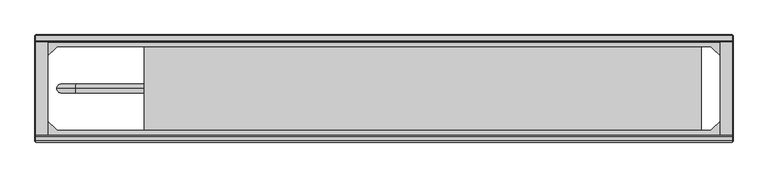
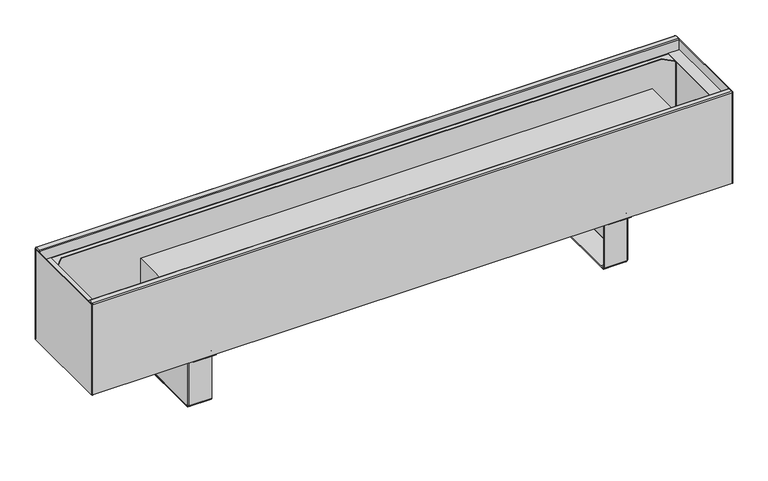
"""IFC4 building model written with IfcOpenShell, lengths in millimetres: proxy geometry, TECHNO_Конвектор напольный_Vita KPZ 185 : KPZ 185-180."""

from ifc_helpers import new_model, si_unit, point, frame, origin, place, context, project, spatial, polyline, circle_curve, ellipse_curve, trimmed, outline, extrude, source, transform, mapped, element, save
from ifc_brep_helpers import plane_surface, cylinder_surface, revolved_surface, advanced_brep


def mechanical_equipment_a01b45b6(model_context):
    return source(origin(), model_context, "Body", "SolidModel", [
        advanced_brep(
        [(409.7, -116.8, 1.5), (409.7, -114.5, 3.8), (409.7, -114.5, 4.9), (409.7, -116.0, 4.9), (409.7, -116.0, 3.8), (409.7, -116.8, 3.0), (409.7, -124.5, 3.0), (409.7, -124.5, 1.5), (409.7, -117.6, 1.5), (409.7, -114.5, 97.7), (409.7, -113.7, 98.5), (409.7, -101.0, 98.5), (409.7, -101.0, 100.0), (409.7, -113.7, 100.0), (409.7, -116.0, 97.7), (409.7, -116.0, 95.5), (409.7, -114.5, 95.5), (409.7, -270.5, 3.8), (409.7, -268.2, 1.5), (409.7, -267.4, 1.5), (409.7, -260.5, 1.5), (409.7, -260.5, 3.0), (409.7, -268.2, 3.0), (409.7, -269.0, 3.8), (409.7, -269.0, 4.9), (409.7, -270.5, 4.9), (409.7, -269.0, 97.7), (409.7, -271.3, 100.0), (409.7, -284.0, 100.0), (409.7, -284.0, 98.5), (409.7, -271.3, 98.5), (409.7, -270.5, 97.7), (409.7, -270.5, 95.5), (409.7, -269.0, 95.5), (367.0, -270.5, 97.7), (367.0, -271.3, 98.5), (367.0, -284.0, 98.5), (367.0, -284.0, 100.0), (367.0, -271.3, 100.0), (367.0, -269.0, 97.7), (367.0, -269.0, 3.8), (367.0, -268.2, 3.0), (367.0, -260.5, 3.0), (367.0, -260.5, 1.5), (367.0, -124.5, 1.5), (367.0, -124.5, 3.0), (367.0, -116.8, 3.0), (367.0, -116.0, 3.8), (367.0, -116.0, 97.7), (367.0, -113.7, 100.0), (367.0, -101.0, 100.0), (367.0, -101.0, 98.5), (367.0, -113.7, 98.5), (367.0, -114.5, 97.7), (367.0, -114.5, 3.8), (367.0, -116.8, 1.5), (367.0, -117.6, 1.5), (367.0, -117.6, 0.0), (367.0, -267.4, 0.0), (367.0, -267.4, 1.5), (367.0, -268.2, 1.5), (367.0, -270.5, 3.8), (410.5, -116.8, 95.5), (410.5, -268.2, 95.5), (412.0, -268.2, 95.5), (412.0, -116.8, 95.5), (412.0, -116.8, 4.9), (412.0, -117.6, 4.9), (410.5, -117.6, 4.9), (410.5, -116.8, 4.9), (410.5, -268.2, 4.9), (410.5, -267.4, 4.9), (412.0, -267.4, 4.9), (412.0, -268.2, 4.9), (410.5, -117.6, 2.3), (410.5, -267.4, 2.3), (411.9999999, -267.4, 2.3), (412.0, -117.6, 2.3), (409.7, -117.6, 0.0), (409.7, -267.4, 0.0)],
        [
            (0, 1, circle_curve(frame((409.7, -116.8, 3.8), z_axis=(1.0, 0.0, 0.0), x_axis=(0.0, -1.0, 0.0)), 2.3)),
            (1, 2),
            (2, 3),
            (3, 4),
            (4, 5, circle_curve(frame((409.7, -116.8, 3.8), z_axis=(-1.0, 0.0, 0.0), x_axis=(0.0, -1.0, 0.0)), 0.8)),
            (5, 6),
            (6, 7),
            (7, 8),
            (8, 0),
            (9, 10, circle_curve(frame((409.7, -113.7, 97.7), z_axis=(-1.0, 0.0, 0.0), x_axis=(0.0, -1.0, 0.0)), 0.8)),
            (10, 11),
            (11, 12),
            (12, 13),
            (13, 14, circle_curve(frame((409.7, -113.7, 97.7), z_axis=(1.0, 0.0, 0.0), x_axis=(0.0, -1.0, 0.0)), 2.3)),
            (14, 15),
            (15, 16),
            (16, 9),
            (17, 18, circle_curve(frame((409.7, -268.2, 3.8), z_axis=(1.0, 0.0, 0.0), x_axis=(0.0, -1.0, 0.0)), 2.3)),
            (18, 19),
            (19, 20),
            (20, 21),
            (21, 22),
            (22, 23, circle_curve(frame((409.7, -268.2, 3.8), z_axis=(-1.0, 0.0, 0.0), x_axis=(0.0, -1.0, 0.0)), 0.8)),
            (23, 24),
            (24, 25),
            (25, 17),
            (26, 27, circle_curve(frame((409.7, -271.3, 97.7), z_axis=(1.0, 0.0, 0.0), x_axis=(0.0, -1.0, 0.0)), 2.3)),
            (27, 28),
            (28, 29),
            (29, 30),
            (30, 31, circle_curve(frame((409.7, -271.3, 97.7), z_axis=(-1.0, 0.0, 0.0), x_axis=(0.0, -1.0, 0.0)), 0.8)),
            (31, 32),
            (32, 33),
            (33, 26),
            (34, 35, circle_curve(frame((367.0, -271.3, 97.7), z_axis=(1.0, 0.0, 0.0), x_axis=(0.0, -1.0, 0.0)), 0.8)),
            (35, 36),
            (36, 37),
            (37, 38),
            (38, 39, circle_curve(frame((367.0, -271.3, 97.7), z_axis=(-1.0, 0.0, 0.0), x_axis=(0.0, -1.0, 0.0)), 2.3)),
            (39, 40),
            (40, 41, circle_curve(frame((367.0, -268.2, 3.8), z_axis=(1.0, 0.0, 0.0), x_axis=(0.0, -1.0, 0.0)), 0.8)),
            (41, 42),
            (42, 43),
            (43, 44),
            (44, 45),
            (45, 46),
            (46, 47, circle_curve(frame((367.0, -116.8, 3.8), z_axis=(1.0, 0.0, 0.0), x_axis=(0.0, -1.0, 0.0)), 0.8)),
            (47, 48),
            (48, 49, circle_curve(frame((367.0, -113.7, 97.7), z_axis=(-1.0, 0.0, 0.0), x_axis=(0.0, -1.0, 0.0)), 2.3)),
            (49, 50),
            (50, 51),
            (51, 52),
            (52, 53, circle_curve(frame((367.0, -113.7, 97.7), z_axis=(1.0, 0.0, 0.0), x_axis=(0.0, -1.0, 0.0)), 0.8)),
            (53, 54),
            (54, 55, circle_curve(frame((367.0, -116.8, 3.8), z_axis=(-1.0, 0.0, 0.0), x_axis=(0.0, -1.0, 0.0)), 2.3)),
            (55, 56),
            (56, 57),
            (57, 58),
            (58, 59),
            (59, 60),
            (60, 61, circle_curve(frame((367.0, -268.2, 3.8), z_axis=(-1.0, 0.0, 0.0), x_axis=(0.0, -1.0, 0.0)), 2.3)),
            (61, 34),
            (30, 35),
            (34, 31),
            (29, 36),
            (28, 37),
            (27, 38),
            (26, 39),
            (33, 24),
            (23, 40),
            (22, 41),
            (5, 46),
            (45, 6),
            (4, 47),
            (3, 15),
            (14, 48),
            (13, 49),
            (12, 50),
            (11, 51),
            (10, 52),
            (9, 53),
            (16, 2),
            (1, 54),
            (0, 55),
            (8, 56),
            (17, 61),
            (60, 18),
            (25, 32),
            (21, 42),
            (20, 43),
            (59, 19),
            (44, 7),
            (15, 62, circle_curve(frame((409.7, -116.8, 95.5), z_axis=(0.0, 0.0, -1.0), x_axis=(-1.0, 0.0, 0.0)), 0.8)),
            (62, 63),
            (63, 33, circle_curve(frame((409.7, -268.2, 95.5), z_axis=(0.0, 0.0, -1.0), x_axis=(-1.0, 0.0, 0.0)), 0.8)),
            (32, 64, circle_curve(frame((409.7, -268.2, 95.5), z_axis=(0.0, 0.0, 1.0), x_axis=(-1.0, 0.0, 0.0)), 2.3)),
            (64, 65),
            (65, 16, circle_curve(frame((409.7, -116.8, 95.5), z_axis=(0.0, 0.0, 1.0), x_axis=(-1.0, 0.0, 0.0)), 2.3)),
            (2, 66, circle_curve(frame((409.7, -116.8, 4.9), z_axis=(0.0, 0.0, -1.0), x_axis=(-1.0, 0.0, 0.0)), 2.3)),
            (66, 67),
            (67, 68),
            (68, 69),
            (69, 3, circle_curve(frame((409.7, -116.8, 4.9), z_axis=(0.0, 0.0, 1.0), x_axis=(-1.0, 0.0, 0.0)), 0.8)),
            (24, 70, circle_curve(frame((409.7, -268.2, 4.9), z_axis=(0.0, 0.0, 1.0), x_axis=(-1.0, 0.0, 0.0)), 0.8)),
            (70, 71),
            (71, 72),
            (72, 73),
            (73, 25, circle_curve(frame((409.7, -268.2, 4.9), z_axis=(0.0, 0.0, -1.0), x_axis=(-1.0, 0.0, 0.0)), 2.3)),
            (69, 62),
            (68, 74),
            (74, 75),
            (75, 71),
            (70, 63),
            (64, 73),
            (72, 76),
            (76, 77),
            (77, 67),
            (66, 65),
            (8, 74, circle_curve(frame((409.7, -117.6, 2.3), z_axis=(0.0, -1.0, 0.0), x_axis=(-1.0, 0.0, 0.0)), 0.8)),
            (77, 78, circle_curve(frame((409.7, -117.6, 2.3), z_axis=(0.0, 1.0, 0.0), x_axis=(-1.0, 0.0, 0.0)), 2.3)),
            (78, 57),
            (58, 79),
            (79, 76, circle_curve(frame((409.7, -267.4, 2.3), z_axis=(0.0, -1.0, 0.0), x_axis=(-1.0, 0.0, 0.0)), 2.3)),
            (75, 19, circle_curve(frame((409.7, -267.4, 2.3), z_axis=(0.0, 1.0, 0.0), x_axis=(-1.0, 0.0, 0.0)), 0.8)),
            (20, 7),
            (79, 78),
        ],
        [
            plane_surface(frame((409.7, -272.1, 97.7), z_axis=(1.0, 0.0, 0.0), x_axis=(0.0, 0.0, 1.0))),
            plane_surface(frame((367.0, -272.1, 97.7), z_axis=(-1.0, 0.0, 0.0), x_axis=(0.0, 0.0, -1.0))),
            revolved_surface(polyline([(409.7, -272.1, 97.7), (367.0, -272.1, 97.7)]), (409.7, -271.3, 97.7), (1.0, 0.0, 0.0)),
            plane_surface(frame((367.0, -271.3, 98.5), z_axis=(0.0, 0.0, -1.0), x_axis=(1.0, 0.0, 0.0))),
            plane_surface(frame((367.0, -284.0, 98.5), z_axis=(0.0, -1.0, 0.0), x_axis=(1.0, 0.0, 0.0))),
            plane_surface(frame((367.0, -284.0, 100.0), z_axis=(0.0, 0.0, 1.0), x_axis=(1.0, 0.0, 0.0))),
            cylinder_surface(frame((409.7, -271.3, 97.7), z_axis=(-1.0, 0.0, 0.0), x_axis=(0.0, -1.0, 0.0)), 2.3),
            plane_surface(frame((367.0, -269.0, 97.7), z_axis=(0.0, 1.0, 3.692083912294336e-12), x_axis=(1.0, 0.0, 0.0))),
            revolved_surface(polyline([(409.7, -269.0, 3.8), (367.0, -269.0, 3.8)]), (409.7, -268.2, 3.8), (1.0, 0.0, 0.0)),
            plane_surface(frame((367.0, -124.5, 3.0), z_axis=(0.0, 0.0, 1.0), x_axis=(1.0, 0.0, 0.0))),
            revolved_surface(polyline([(409.7, -117.6, 3.8), (367.0, -117.6, 3.8)]), (412.0, -116.8, 3.8), (1.0, 0.0, 0.0)),
            plane_surface(frame((367.0, -116.0, 3.8), z_axis=(0.0, -1.0, 0.0), x_axis=(1.0, 0.0, 0.0))),
            cylinder_surface(frame((412.0, -113.7, 97.7), z_axis=(-1.0, 0.0, 0.0), x_axis=(0.0, -1.0, 0.0)), 2.3),
            plane_surface(frame((367.0, -113.7, 100.0), z_axis=(0.0, 0.0, 1.0), x_axis=(1.0, 0.0, 0.0))),
            plane_surface(frame((367.0, -101.0, 100.0), z_axis=(0.0, 1.0, 0.0), x_axis=(1.0, 0.0, 0.0))),
            plane_surface(frame((367.0, -101.0, 98.5), z_axis=(0.0, 0.0, -1.0), x_axis=(1.0, 0.0, 0.0))),
            revolved_surface(polyline([(409.7, -114.5, 97.7), (367.0, -114.5, 97.7)]), (412.0, -113.7, 97.7), (1.0, 0.0, 0.0)),
            plane_surface(frame((367.0, -114.5, 97.7), z_axis=(0.0, 1.0, 0.0), x_axis=(1.0, 0.0, 0.0))),
            cylinder_surface(frame((412.0, -116.8, 3.8), z_axis=(-1.0, 0.0, 0.0), x_axis=(0.0, -1.0, 0.0)), 2.3),
            plane_surface(frame((367.0, -116.8, 1.5), z_axis=(0.0, 0.0, -1.0), x_axis=(1.0, 0.0, 0.0))),
            cylinder_surface(frame((409.7, -268.2, 3.8), z_axis=(-1.0, 0.0, 0.0), x_axis=(0.0, -1.0, 0.0)), 2.3),
            plane_surface(frame((367.0, -270.5, 3.8), z_axis=(0.0, -1.0, 0.0), x_axis=(1.0, 0.0, 0.0))),
            plane_surface(frame((367.0, -268.2, 3.0), z_axis=(0.0, 0.0, 1.0), x_axis=(1.0, 0.0, 0.0))),
            plane_surface(frame((367.0, -260.5, 3.0), z_axis=(0.0, 1.0, 0.0), x_axis=(1.0, 0.0, 0.0))),
            plane_surface(frame((367.0, -260.5, 1.5), z_axis=(0.0, 0.0, -1.0), x_axis=(1.0, 0.0, 0.0))),
            plane_surface(frame((367.0, -124.5, 1.5), z_axis=(0.0, -1.0, 0.0), x_axis=(1.0, 0.0, 0.0))),
            plane_surface(frame((409.7, -116.0, 95.5), z_axis=(0.0, 0.0, 1.0), x_axis=(0.0, -1.0, 0.0))),
            plane_surface(frame((409.7, -116.0, 4.9), z_axis=(0.0, 0.0, -1.0), x_axis=(0.0, 1.0, 0.0))),
            revolved_surface(polyline([(408.9, -116.8, 4.9), (408.9, -116.8, 95.5)]), (409.7, -116.8, 4.9), (0.0, 0.0, -1.0)),
            plane_surface(frame((410.5, -116.8, 95.5), z_axis=(-1.0, 0.0, 0.0), x_axis=(0.0, 0.0, -1.0))),
            plane_surface(frame((412.0, -117.6, 95.5), z_axis=(1.0, -4.322665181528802e-10, 0.0), x_axis=(0.0, 0.0, -1.0))),
            cylinder_surface(frame((409.7, -116.8, 4.9), z_axis=(0.0, 0.0, 1.0), x_axis=(-1.0, 0.0, 0.0)), 2.3),
            cylinder_surface(frame((409.7, -268.2, 0.0), z_axis=(0.0, 0.0, 1.0), x_axis=(-1.0, 0.0, 0.0)), 2.3),
            revolved_surface(polyline([(408.9, -268.2, 4.9), (408.9, -268.2, 95.5)]), (409.7, -268.2, 0.0), (0.0, 0.0, -1.0)),
            plane_surface(frame((367.0, -117.6, 1.5), z_axis=(0.0, 1.0, 0.0), x_axis=(0.0, 0.0, 1.0))),
            plane_surface(frame((367.0, -267.4, 1.5), z_axis=(0.0, -1.0, 0.0), x_axis=(0.0, 0.0, -1.0))),
            plane_surface(frame((367.0, -117.6, 1.5), z_axis=(0.0, 0.0, 1.0), x_axis=(0.0, -1.0, 0.0))),
            revolved_surface(polyline([(408.9, -267.4, 2.3), (408.9, -117.6, 2.3)]), (409.7, -267.4, 2.3), (0.0, -1.0, 0.0)),
            cylinder_surface(frame((409.7, -267.4, 2.3), z_axis=(0.0, 1.0, 0.0), x_axis=(-1.0, 0.0, 0.0)), 2.3),
            plane_surface(frame((409.7, -117.6, 0.0), z_axis=(0.0, 0.0, -1.0), x_axis=(0.0, -1.0, 0.0))),
        ],
        [
            (0, [[1, 2, 3, 4, 5, 6, 7, 8, 9]]),
            (0, [[10, 11, 12, 13, 14, 15, 16, 17]]),
            (0, [[18, 19, 20, 21, 22, 23, 24, 25, 26]]),
            (0, [[27, 28, 29, 30, 31, 32, 33, 34]]),
            (1, [[35, 36, 37, 38, 39, 40, 41, 42, 43, 44, 45, 46, 47, 48, 49, 50, 51, 52, 53, 54, 55, 56, 57, 58, 59, 60, 61, 62]]),
            (2, [[-31, 63, -35, 64]]),
            (3, [[-30, 65, -36, -63]]),
            (4, [[-29, 66, -37, -65]]),
            (5, [[-28, 67, -38, -66]]),
            (6, [[-27, 68, -39, -67]]),
            (7, [[-40, -68, -34, 69, -24, 70]]),
            (8, [[-23, 71, -41, -70]]),
            (9, [[-6, 72, -46, 73]]),
            (10, [[-5, 74, -47, -72]]),
            (11, [[-48, -74, -4, 75, -15, 76]]),
            (12, [[-14, 77, -49, -76]]),
            (13, [[-13, 78, -50, -77]]),
            (14, [[-12, 79, -51, -78]]),
            (15, [[-11, 80, -52, -79]]),
            (16, [[-10, 81, -53, -80]]),
            (17, [[-54, -81, -17, 82, -2, 83]]),
            (18, [[-1, 84, -55, -83]]),
            (19, [[-84, -9, 85, -56]]),
            (20, [[-18, 86, -61, 87]]),
            (21, [[-62, -86, -26, 88, -32, -64]]),
            (22, [[-22, 89, -42, -71]]),
            (23, [[-21, 90, -43, -89]]),
            (24, [[-87, -60, 91, -19]]),
            (25, [[-7, -73, -45, 92]]),
            (26, [[93, 94, 95, -33, 96, 97, 98, -16]]),
            (27, [[99, 100, 101, 102, 103, -3]]),
            (27, [[104, 105, 106, 107, 108, -25]]),
            (28, [[-93, -75, -103, 109]]),
            (29, [[-94, -109, -102, 110, 111, 112, -105, 113]]),
            (30, [[-97, 114, -107, 115, 116, 117, -100, 118]]),
            (31, [[-98, -118, -99, -82]]),
            (32, [[-96, -88, -108, -114]]),
            (33, [[-95, -113, -104, -69]]),
            (34, [[-57, -85, 119, -110, -101, -117, 120, 121]]),
            (35, [[122, 123, -115, -106, -112, 124, -91, -59]]),
            (36, [[125, -92, -44, -90]]),
            (37, [[-119, -8, -125, -20, -124, -111]]),
            (38, [[-120, -116, -123, 126]]),
            (39, [[-121, -126, -122, -58]]),
        ],
    ),
        advanced_brep(
        [(-409.7, -268.2, 1.5), (-409.7, -270.5, 3.8), (-409.7, -270.5, 4.9), (-409.7, -269.0, 4.9), (-409.7, -269.0, 3.8), (-409.7, -268.2, 3.0), (-409.7, -260.5, 3.0), (-409.7, -260.5, 1.5), (-409.7, -267.4, 1.5), (-409.7, -270.5, 97.7), (-409.7, -271.3, 98.5), (-409.7, -284.0, 98.5), (-409.7, -284.0, 100.0), (-409.7, -271.3, 100.0), (-409.7, -269.0, 97.7), (-409.7, -269.0, 95.5), (-409.7, -270.5, 95.5), (-409.7, -114.5, 3.8), (-409.7, -116.8, 1.5), (-409.7, -117.6, 1.5), (-409.7, -124.5, 1.5), (-409.7, -124.5, 3.0), (-409.7, -116.8, 3.0), (-409.7, -116.0, 3.8), (-409.7, -116.0, 4.9), (-409.7, -114.5, 4.9), (-409.7, -116.0, 97.7), (-409.7, -113.7, 100.0), (-409.7, -101.0, 100.0), (-409.7, -101.0, 98.5), (-409.7, -113.7, 98.5), (-409.7, -114.5, 97.7), (-409.7, -114.5, 95.5), (-409.7, -116.0, 95.5), (-367.0, -114.5, 97.7), (-367.0, -113.7, 98.5), (-367.0, -101.0, 98.5), (-367.0, -101.0, 100.0), (-367.0, -113.7, 100.0), (-367.0, -116.0, 97.7), (-367.0, -116.0, 3.8), (-367.0, -116.8, 3.0), (-367.0, -124.5, 3.0), (-367.0, -124.5, 1.5), (-367.0, -260.5, 1.5), (-367.0, -260.5, 3.0), (-367.0, -268.2, 3.0), (-367.0, -269.0, 3.8), (-367.0, -269.0, 97.7), (-367.0, -271.3, 100.0), (-367.0, -284.0, 100.0), (-367.0, -284.0, 98.5), (-367.0, -271.3, 98.5), (-367.0, -270.5, 97.7), (-367.0, -270.5, 3.8), (-367.0, -268.2, 1.5), (-367.0, -267.4, 1.5), (-367.0, -267.4, 0.0), (-367.0, -117.6, 0.0), (-367.0, -117.6, 1.5), (-367.0, -116.8, 1.5), (-367.0, -114.5, 3.8), (-410.5, -268.2, 95.5), (-410.5, -116.8, 95.5), (-412.0, -116.8, 95.5), (-412.0, -268.2, 95.5), (-412.0, -268.2, 4.9), (-412.0, -267.4, 4.9), (-410.5, -267.4, 4.9), (-410.5, -268.2, 4.9), (-410.5, -116.8, 4.9), (-410.5, -117.6, 4.9), (-412.0, -117.6, 4.9), (-412.0, -116.8, 4.9), (-410.5, -267.4, 2.3), (-410.5, -117.6, 2.3), (-411.9999999, -117.6, 2.3), (-412.0, -267.4, 2.3), (-409.7, -267.4, 0.0), (-409.7, -117.6, 0.0)],
        [
            (0, 1, circle_curve(frame((-409.7, -268.2, 3.8), z_axis=(-1.0, 0.0, 0.0), x_axis=(0.0, 1.0, 0.0)), 2.3)),
            (1, 2),
            (2, 3),
            (3, 4),
            (4, 5, circle_curve(frame((-409.7, -268.2, 3.8), z_axis=(1.0, 0.0, 0.0), x_axis=(0.0, 1.0, 0.0)), 0.8)),
            (5, 6),
            (6, 7),
            (7, 8),
            (8, 0),
            (9, 10, circle_curve(frame((-409.7, -271.3, 97.7), z_axis=(1.0, 0.0, 0.0), x_axis=(0.0, 1.0, 0.0)), 0.8)),
            (10, 11),
            (11, 12),
            (12, 13),
            (13, 14, circle_curve(frame((-409.7, -271.3, 97.7), z_axis=(-1.0, 0.0, 0.0), x_axis=(0.0, 1.0, 0.0)), 2.3)),
            (14, 15),
            (15, 16),
            (16, 9),
            (17, 18, circle_curve(frame((-409.7, -116.8, 3.8), z_axis=(-1.0, 0.0, 0.0), x_axis=(0.0, 1.0, 0.0)), 2.3)),
            (18, 19),
            (19, 20),
            (20, 21),
            (21, 22),
            (22, 23, circle_curve(frame((-409.7, -116.8, 3.8), z_axis=(1.0, 0.0, 0.0), x_axis=(0.0, 1.0, 0.0)), 0.8)),
            (23, 24),
            (24, 25),
            (25, 17),
            (26, 27, circle_curve(frame((-409.7, -113.7, 97.7), z_axis=(-1.0, 0.0, 0.0), x_axis=(0.0, 1.0, 0.0)), 2.3)),
            (27, 28),
            (28, 29),
            (29, 30),
            (30, 31, circle_curve(frame((-409.7, -113.7, 97.7), z_axis=(1.0, 0.0, 0.0), x_axis=(0.0, 1.0, 0.0)), 0.8)),
            (31, 32),
            (32, 33),
            (33, 26),
            (34, 35, circle_curve(frame((-367.0, -113.7, 97.7), z_axis=(-1.0, 0.0, 0.0), x_axis=(0.0, 1.0, 0.0)), 0.8)),
            (35, 36),
            (36, 37),
            (37, 38),
            (38, 39, circle_curve(frame((-367.0, -113.7, 97.7), z_axis=(1.0, 0.0, 0.0), x_axis=(0.0, 1.0, 0.0)), 2.3)),
            (39, 40),
            (40, 41, circle_curve(frame((-367.0, -116.8, 3.8), z_axis=(-1.0, 0.0, 0.0), x_axis=(0.0, 1.0, 0.0)), 0.8)),
            (41, 42),
            (42, 43),
            (43, 44),
            (44, 45),
            (45, 46),
            (46, 47, circle_curve(frame((-367.0, -268.2, 3.8), z_axis=(-1.0, 0.0, 0.0), x_axis=(0.0, 1.0, 0.0)), 0.8)),
            (47, 48),
            (48, 49, circle_curve(frame((-367.0, -271.3, 97.7), z_axis=(1.0, 0.0, 0.0), x_axis=(0.0, 1.0, 0.0)), 2.3)),
            (49, 50),
            (50, 51),
            (51, 52),
            (52, 53, circle_curve(frame((-367.0, -271.3, 97.7), z_axis=(-1.0, 0.0, 0.0), x_axis=(0.0, 1.0, 0.0)), 0.8)),
            (53, 54),
            (54, 55, circle_curve(frame((-367.0, -268.2, 3.8), z_axis=(1.0, 0.0, 0.0), x_axis=(0.0, 1.0, 0.0)), 2.3)),
            (55, 56),
            (56, 57),
            (57, 58),
            (58, 59),
            (59, 60),
            (60, 61, circle_curve(frame((-367.0, -116.8, 3.8), z_axis=(1.0, 0.0, 0.0), x_axis=(0.0, 1.0, 0.0)), 2.3)),
            (61, 34),
            (30, 35),
            (34, 31),
            (29, 36),
            (28, 37),
            (27, 38),
            (26, 39),
            (33, 24),
            (23, 40),
            (22, 41),
            (5, 46),
            (45, 6),
            (4, 47),
            (3, 15),
            (14, 48),
            (13, 49),
            (12, 50),
            (11, 51),
            (10, 52),
            (9, 53),
            (16, 2),
            (1, 54),
            (0, 55),
            (8, 56),
            (17, 61),
            (60, 18),
            (25, 32),
            (21, 42),
            (20, 43),
            (59, 19),
            (44, 7),
            (15, 62, circle_curve(frame((-409.7, -268.2, 95.5), z_axis=(0.0, 0.0, -1.0), x_axis=(1.0, 0.0, 0.0)), 0.8)),
            (62, 63),
            (63, 33, circle_curve(frame((-409.7, -116.8, 95.5), z_axis=(0.0, 0.0, -1.0), x_axis=(1.0, 0.0, 0.0)), 0.8)),
            (32, 64, circle_curve(frame((-409.7, -116.8, 95.5), z_axis=(0.0, 0.0, 1.0), x_axis=(1.0, 0.0, 0.0)), 2.3)),
            (64, 65),
            (65, 16, circle_curve(frame((-409.7, -268.2, 95.5), z_axis=(0.0, 0.0, 1.0), x_axis=(1.0, 0.0, 0.0)), 2.3)),
            (2, 66, circle_curve(frame((-409.7, -268.2, 4.9), z_axis=(0.0, 0.0, -1.0), x_axis=(1.0, 0.0, 0.0)), 2.3)),
            (66, 67),
            (67, 68),
            (68, 69),
            (69, 3, circle_curve(frame((-409.7, -268.2, 4.9), z_axis=(0.0, 0.0, 1.0), x_axis=(1.0, 0.0, 0.0)), 0.8)),
            (24, 70, circle_curve(frame((-409.7, -116.8, 4.9), z_axis=(0.0, 0.0, 1.0), x_axis=(1.0, 0.0, 0.0)), 0.8)),
            (70, 71),
            (71, 72),
            (72, 73),
            (73, 25, circle_curve(frame((-409.7, -116.8, 4.9), z_axis=(0.0, 0.0, -1.0), x_axis=(1.0, 0.0, 0.0)), 2.3)),
            (69, 62),
            (68, 74),
            (74, 75),
            (75, 71),
            (70, 63),
            (64, 73),
            (72, 76),
            (76, 77),
            (77, 67),
            (66, 65),
            (8, 74, circle_curve(frame((-409.7, -267.4, 2.3), z_axis=(0.0, 1.0, 0.0), x_axis=(1.0, 0.0, 0.0)), 0.8)),
            (77, 78, circle_curve(frame((-409.7, -267.4, 2.3), z_axis=(0.0, -1.0, 0.0), x_axis=(1.0, 0.0, 0.0)), 2.3)),
            (78, 57),
            (58, 79),
            (79, 76, circle_curve(frame((-409.7, -117.6, 2.3), z_axis=(0.0, 1.0, 0.0), x_axis=(1.0, 0.0, 0.0)), 2.3)),
            (75, 19, circle_curve(frame((-409.7, -117.6, 2.3), z_axis=(0.0, -1.0, 0.0), x_axis=(1.0, 0.0, 0.0)), 0.8)),
            (20, 7),
            (79, 78),
        ],
        [
            plane_surface(frame((-409.7, -112.9, 97.7), z_axis=(-1.0, 0.0, 0.0), x_axis=(0.0, 0.0, 1.0))),
            plane_surface(frame((-367.0, -112.9, 97.7), z_axis=(1.0, 0.0, 0.0), x_axis=(0.0, 0.0, -1.0))),
            revolved_surface(polyline([(-409.7, -112.9, 97.7), (-367.0, -112.9, 97.7)]), (-409.7, -113.7, 97.7), (-1.0, 0.0, 0.0)),
            plane_surface(frame((-367.0, -113.7, 98.5), z_axis=(0.0, 0.0, -1.0), x_axis=(-1.0, 0.0, 0.0))),
            plane_surface(frame((-367.0, -101.0, 98.5), z_axis=(0.0, 1.0, 0.0), x_axis=(-1.0, 0.0, 0.0))),
            plane_surface(frame((-367.0, -101.0, 100.0), z_axis=(0.0, 0.0, 1.0), x_axis=(-1.0, 0.0, 0.0))),
            cylinder_surface(frame((-409.7, -113.7, 97.7), z_axis=(1.0, 0.0, 0.0), x_axis=(0.0, 1.0, 0.0)), 2.3),
            plane_surface(frame((-367.0, -116.0, 97.7), z_axis=(0.0, -1.0, 3.692083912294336e-12), x_axis=(-1.0, 0.0, 0.0))),
            revolved_surface(polyline([(-409.7, -116.0, 3.8), (-367.0, -116.0, 3.8)]), (-409.7, -116.8, 3.8), (-1.0, 0.0, 0.0)),
            plane_surface(frame((-367.0, -260.5, 3.0), z_axis=(0.0, 0.0, 1.0), x_axis=(-1.0, 0.0, 0.0))),
            revolved_surface(polyline([(-409.7, -267.4, 3.8), (-367.0, -267.4, 3.8)]), (-412.0, -268.2, 3.8), (-1.0, 0.0, 0.0)),
            plane_surface(frame((-367.0, -269.0, 3.8), z_axis=(0.0, 1.0, 0.0), x_axis=(-1.0, 0.0, 0.0))),
            cylinder_surface(frame((-412.0, -271.3, 97.7), z_axis=(1.0, 0.0, 0.0), x_axis=(0.0, 1.0, 0.0)), 2.3),
            plane_surface(frame((-367.0, -271.3, 100.0), z_axis=(0.0, 0.0, 1.0), x_axis=(-1.0, 0.0, 0.0))),
            plane_surface(frame((-367.0, -284.0, 100.0), z_axis=(0.0, -1.0, 0.0), x_axis=(-1.0, 0.0, 0.0))),
            plane_surface(frame((-367.0, -284.0, 98.5), z_axis=(0.0, 0.0, -1.0), x_axis=(-1.0, 0.0, 0.0))),
            revolved_surface(polyline([(-409.7, -270.5, 97.7), (-367.0, -270.5, 97.7)]), (-412.0, -271.3, 97.7), (-1.0, 0.0, 0.0)),
            plane_surface(frame((-367.0, -270.5, 97.7), z_axis=(0.0, -1.0, 0.0), x_axis=(-1.0, 0.0, 0.0))),
            cylinder_surface(frame((-412.0, -268.2, 3.8), z_axis=(1.0, 0.0, 0.0), x_axis=(0.0, 1.0, 0.0)), 2.3),
            plane_surface(frame((-367.0, -268.2, 1.5), z_axis=(0.0, 0.0, -1.0), x_axis=(-1.0, 0.0, 0.0))),
            cylinder_surface(frame((-409.7, -116.8, 3.8), z_axis=(1.0, 0.0, 0.0), x_axis=(0.0, 1.0, 0.0)), 2.3),
            plane_surface(frame((-367.0, -114.5, 3.8), z_axis=(0.0, 1.0, 0.0), x_axis=(-1.0, 0.0, 0.0))),
            plane_surface(frame((-367.0, -116.8, 3.0), z_axis=(0.0, 0.0, 1.0), x_axis=(-1.0, 0.0, 0.0))),
            plane_surface(frame((-367.0, -124.5, 3.0), z_axis=(0.0, -1.0, 0.0), x_axis=(-1.0, 0.0, 0.0))),
            plane_surface(frame((-367.0, -124.5, 1.5), z_axis=(0.0, 0.0, -1.0), x_axis=(-1.0, 0.0, 0.0))),
            plane_surface(frame((-367.0, -260.5, 1.5), z_axis=(0.0, 1.0, 0.0), x_axis=(-1.0, 0.0, 0.0))),
            plane_surface(frame((-409.7, -269.0, 95.5), z_axis=(0.0, 0.0, 1.0), x_axis=(0.0, 1.0, 0.0))),
            plane_surface(frame((-409.7, -269.0, 4.9), z_axis=(0.0, 0.0, -1.0), x_axis=(0.0, -1.0, 0.0))),
            revolved_surface(polyline([(-408.9, -268.2, 4.9), (-408.9, -268.2, 95.5)]), (-409.7, -268.2, 4.9), (0.0, 0.0, -1.0)),
            plane_surface(frame((-410.5, -268.2, 95.5), z_axis=(1.0, 0.0, 0.0), x_axis=(0.0, 0.0, -1.0))),
            plane_surface(frame((-412.0, -267.4, 95.5), z_axis=(-1.0, 4.3226335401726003e-10, 0.0), x_axis=(0.0, 0.0, -1.0))),
            cylinder_surface(frame((-409.7, -268.2, 4.9), z_axis=(0.0, 0.0, 1.0), x_axis=(1.0, 0.0, 0.0)), 2.3),
            cylinder_surface(frame((-409.7, -116.8, 0.0), z_axis=(0.0, 0.0, 1.0), x_axis=(1.0, 0.0, 0.0)), 2.3),
            revolved_surface(polyline([(-408.9, -116.8, 4.9), (-408.9, -116.8, 95.5)]), (-409.7, -116.8, 0.0), (0.0, 0.0, -1.0)),
            plane_surface(frame((-367.0, -267.4, 1.5), z_axis=(0.0, -1.0, 0.0), x_axis=(0.0, 0.0, 1.0))),
            plane_surface(frame((-367.0, -117.6, 1.5), z_axis=(0.0, 1.0, 0.0), x_axis=(0.0, 0.0, -1.0))),
            plane_surface(frame((-367.0, -267.4, 1.5), z_axis=(0.0, 0.0, 1.0), x_axis=(0.0, 1.0, 0.0))),
            revolved_surface(polyline([(-408.9, -117.6, 2.3), (-408.9, -267.4, 2.3)]), (-409.7, -117.6, 2.3), (0.0, 1.0, 0.0)),
            cylinder_surface(frame((-409.7, -117.6, 2.3), z_axis=(0.0, -1.0, 0.0), x_axis=(1.0, 0.0, 0.0)), 2.3),
            plane_surface(frame((-409.7, -267.4, 0.0), z_axis=(0.0, 0.0, -1.0), x_axis=(0.0, 1.0, 0.0))),
        ],
        [
            (0, [[1, 2, 3, 4, 5, 6, 7, 8, 9]]),
            (0, [[10, 11, 12, 13, 14, 15, 16, 17]]),
            (0, [[18, 19, 20, 21, 22, 23, 24, 25, 26]]),
            (0, [[27, 28, 29, 30, 31, 32, 33, 34]]),
            (1, [[35, 36, 37, 38, 39, 40, 41, 42, 43, 44, 45, 46, 47, 48, 49, 50, 51, 52, 53, 54, 55, 56, 57, 58, 59, 60, 61, 62]]),
            (2, [[-31, 63, -35, 64]]),
            (3, [[-30, 65, -36, -63]]),
            (4, [[-29, 66, -37, -65]]),
            (5, [[-28, 67, -38, -66]]),
            (6, [[-27, 68, -39, -67]]),
            (7, [[-40, -68, -34, 69, -24, 70]]),
            (8, [[-23, 71, -41, -70]]),
            (9, [[-6, 72, -46, 73]]),
            (10, [[-5, 74, -47, -72]]),
            (11, [[-48, -74, -4, 75, -15, 76]]),
            (12, [[-14, 77, -49, -76]]),
            (13, [[-13, 78, -50, -77]]),
            (14, [[-12, 79, -51, -78]]),
            (15, [[-11, 80, -52, -79]]),
            (16, [[-10, 81, -53, -80]]),
            (17, [[-54, -81, -17, 82, -2, 83]]),
            (18, [[-1, 84, -55, -83]]),
            (19, [[-84, -9, 85, -56]]),
            (20, [[-18, 86, -61, 87]]),
            (21, [[-62, -86, -26, 88, -32, -64]]),
            (22, [[-22, 89, -42, -71]]),
            (23, [[-21, 90, -43, -89]]),
            (24, [[-87, -60, 91, -19]]),
            (25, [[-7, -73, -45, 92]]),
            (26, [[93, 94, 95, -33, 96, 97, 98, -16]]),
            (27, [[99, 100, 101, 102, 103, -3]]),
            (27, [[104, 105, 106, 107, 108, -25]]),
            (28, [[-93, -75, -103, 109]]),
            (29, [[-94, -109, -102, 110, 111, 112, -105, 113]]),
            (30, [[-97, 114, -107, 115, 116, 117, -100, 118]]),
            (31, [[-98, -118, -99, -82]]),
            (32, [[-96, -88, -108, -114]]),
            (33, [[-95, -113, -104, -69]]),
            (34, [[-57, -85, 119, -110, -101, -117, 120, 121]]),
            (35, [[122, 123, -115, -106, -112, 124, -91, -59]]),
            (36, [[125, -92, -44, -90]]),
            (37, [[-119, -8, -125, -20, -124, -111]]),
            (38, [[-120, -116, -123, 126]]),
            (39, [[-121, -126, -122, -58]]),
        ],
    ),
        advanced_brep(
        [(-412.0, -192.5, 186.5), (-412.0, -192.5, 171.5), (-530.0, -192.5, 186.5), (-530.0, -192.5, 171.5), (-547.5, -192.5, 154.0), (-562.5, -192.5, 154.0), (-562.5, -192.5, 100.0), (-547.5, -192.5, 100.0)],
        [
            (0, 1, circle_curve(frame((-412.0, -192.5, 179.0), z_axis=(1.0, 0.0, 0.0), x_axis=(0.0, 0.0, -1.0)), 7.5)),
            (1, 0, circle_curve(frame((-412.0, -192.5, 179.0), z_axis=(1.0, 0.0, 0.0), x_axis=(0.0, 0.0, -1.0)), 7.5)),
            (0, 2),
            (2, 3, circle_curve(frame((-530.0, -192.5, 179.0), z_axis=(1.0, 0.0, 0.0), x_axis=(0.0, 0.0, -1.0)), 7.5)),
            (3, 1),
            (3, 2, circle_curve(frame((-530.0, -192.5, 179.0), z_axis=(1.0, 0.0, 0.0), x_axis=(0.0, 0.0, -1.0)), 7.5)),
            (4, 3, circle_curve(frame((-530.0, -192.5, 154.0), z_axis=(0.0, 1.0, 0.0), x_axis=(0.0, 0.0, 1.0)), 17.5)),
            (2, 5, circle_curve(frame((-530.0, -192.5, 154.0), z_axis=(0.0, -1.0, 0.0), x_axis=(0.0, 0.0, 1.0)), 32.5)),
            (5, 4, circle_curve(frame((-555.0, -192.5, 154.0), z_axis=(0.0, 0.0, 1.0), x_axis=(1.0, 0.0, 0.0)), 7.5)),
            (4, 5, circle_curve(frame((-555.0, -192.5, 154.0), z_axis=(0.0, 0.0, 1.0), x_axis=(1.0, 0.0, 0.0)), 7.5)),
            (6, 7, circle_curve(frame((-555.0, -192.5, 100.0), z_axis=(0.0, 0.0, -1.0), x_axis=(1.0, 0.0, 0.0)), 7.5)),
            (7, 6, circle_curve(frame((-555.0, -192.5, 100.0), z_axis=(0.0, 0.0, -1.0), x_axis=(1.0, 0.0, 0.0)), 7.5)),
            (5, 6),
            (7, 4),
        ],
        [
            plane_surface(frame((-412.0, -192.5, 179.0), z_axis=(1.0, 0.0, 0.0), x_axis=(0.0, -1.0, 0.0))),
            cylinder_surface(frame((-412.0, -192.5, 179.0), z_axis=(1.0, 0.0, 0.0), x_axis=(0.0, 0.0, -1.0)), 7.5),
            revolved_surface(trimmed(ellipse_curve(frame((-530.0, -192.5, 179.0), z_axis=(1.0, 0.0, 0.0), x_axis=(0.0, 0.0, -1.0)), 7.5, 7.5), [point((-530.0, -192.5, 186.5))], [point((-530.0, -192.5, 171.5))], True, "CARTESIAN"), (-530.0, -192.5, 154.0), (0.0, -1.0, 0.0)),
            revolved_surface(trimmed(ellipse_curve(frame((-530.0, -192.5, 179.0), z_axis=(1.0, 0.0, 0.0), x_axis=(0.0, 0.0, -1.0)), 7.5, 7.5), [point((-530.0, -192.5, 171.5))], [point((-530.0, -192.5, 186.5))], True, "CARTESIAN"), (-530.0, -192.5, 154.0), (0.0, -1.0, 0.0)),
            plane_surface(frame((-555.0, -192.5, 100.0), z_axis=(0.0, 0.0, -1.0), x_axis=(0.0, -1.0, 0.0))),
            cylinder_surface(frame((-555.0, -192.5, 154.0), z_axis=(0.0, 0.0, 1.0), x_axis=(1.0, 0.0, 0.0)), 7.5),
        ],
        [
            (0, [[1, 2]]),
            (1, [[-1, 3, 4, 5]]),
            (1, [[-2, -5, 6, -3]]),
            (2, [[7, -4, 8, 9]]),
            (3, [[-8, -6, -7, 10]]),
            (4, [[11, 12]]),
            (5, [[-9, 13, -12, 14]]),
            (5, [[-10, -14, -11, -13]]),
        ],
    ),
        advanced_brep(
        [(-412.0, -192.5, 136.5), (-412.0, -192.5, 121.5), (-512.5, -192.5, 136.5), (-497.5, -192.5, 121.5), (-512.5, -192.5, 100.0), (-497.5, -192.5, 100.0)],
        [
            (0, 1, circle_curve(frame((-412.0, -192.5, 129.0), z_axis=(1.0, 0.0, 0.0), x_axis=(0.0, 0.0, -1.0)), 7.5)),
            (1, 0, circle_curve(frame((-412.0, -192.5, 129.0), z_axis=(1.0, 0.0, 0.0), x_axis=(0.0, 0.0, -1.0)), 7.5)),
            (0, 2),
            (2, 3, ellipse_curve(frame((-505.0, -192.5, 129.0), z_axis=(0.7071067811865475, 0.0, 0.7071067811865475), x_axis=(0.7071067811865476, 0.0, -0.7071067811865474)), 10.6066017, 7.5)),
            (3, 1),
            (3, 2, ellipse_curve(frame((-505.0, -192.5, 129.0), z_axis=(0.7071067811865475, 0.0, 0.7071067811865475), x_axis=(0.7071067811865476, 0.0, -0.7071067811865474)), 10.6066017, 7.5)),
            (4, 5, circle_curve(frame((-505.0, -192.5, 100.0), z_axis=(0.0, 0.0, -1.0), x_axis=(1.0, 0.0, 0.0)), 7.5)),
            (5, 4, circle_curve(frame((-505.0, -192.5, 100.0), z_axis=(0.0, 0.0, -1.0), x_axis=(1.0, 0.0, 0.0)), 7.5)),
            (2, 4),
            (5, 3),
        ],
        [
            plane_surface(frame((-412.0, -192.5, 129.0), z_axis=(1.0, 0.0, 0.0), x_axis=(0.0, -1.0, 0.0))),
            cylinder_surface(frame((-412.0, -192.5, 129.0), z_axis=(1.0, 0.0, 0.0), x_axis=(0.0, 0.0, -1.0)), 7.5),
            plane_surface(frame((-505.0, -192.5, 100.0), z_axis=(0.0, 0.0, -1.0), x_axis=(0.0, -1.0, 0.0))),
            cylinder_surface(frame((-505.0, -192.5, 129.0), z_axis=(0.0, 0.0, 1.0), x_axis=(1.0, 0.0, 0.0)), 7.5),
        ],
        [
            (0, [[1, 2]]),
            (1, [[-1, 3, 4, 5]]),
            (1, [[-2, -5, 6, -3]]),
            (2, [[7, 8]]),
            (3, [[-4, 9, -8, 10]]),
            (3, [[-6, -10, -7, -9]]),
        ],
    ),
        extrude(outline(polyline([(545.5, -117.5), (545.5, -267.5), (-412.0, -267.5), (-412.0, -117.5), (545.5, -117.5)])), frame((0.0, 0.0, 103.87), z_axis=(0.0, 0.0, 1.0), x_axis=(1.0, 0.0, 0.0)), (0.0, 0.0, 1.0), 100.0),
        extrude(outline(polyline([(-585.5004, -102.0), (-585.5004, -283.0), (-599.0, -283.0), (-599.0, -102.0), (-585.5004, -102.0)])), frame((0.0, 0.0, 101.83), z_axis=(0.0, 0.0, 1.0), x_axis=(1.0, 0.0, 0.0)), (0.0, 0.0, 1.0), 1.0002),
        extrude(outline(polyline([(585.5004, -102.0), (599.0, -102.0), (599.0, -283.0), (585.5004, -283.0), (585.5004, -102.0)])), frame((0.0, 0.0, 101.83), z_axis=(0.0, 0.0, 1.0), x_axis=(1.0, 0.0, 0.0)), (0.0, 0.0, 1.0), 1.0002),
        extrude(outline(polyline([(-599.0, -272.2), (-599.0, -112.8), (-578.0, -112.8), (-578.0, -272.2), (-599.0, -272.2)])), frame((0.0, 0.0, 258.83), z_axis=(0.0, 0.0, 1.0), x_axis=(1.0, 0.0, 0.0)), (0.0, 0.0, 1.0), 1.0002),
        extrude(outline(polyline([(599.0, -272.2), (578.0, -272.2), (578.0, -112.8), (599.0, -112.8), (599.0, -272.2)])), frame((0.0, 0.0, 258.83), z_axis=(0.0, 0.0, 1.0), x_axis=(1.0, 0.0, 0.0)), (0.0, 0.0, 1.0), 1.0002),
        advanced_brep(
        [(-598.2, -101.8, 280.83), (-598.2, -100.0, 279.03), (-598.2, -101.0, 279.03), (-598.2, -101.0, 257.83), (-598.2, -138.5, 257.83), (-598.2, -138.5, 258.83), (-598.2, -112.8, 258.83), (-598.2, -112.0, 259.63), (-598.2, -112.0, 279.03), (-598.2, -110.2, 280.83), (-598.2, -283.2, 280.83), (-598.2, -274.8, 280.83), (-598.2, -273.0, 279.03), (-598.2, -273.0, 259.63), (-598.2, -272.2, 258.83), (-598.2, -246.5, 258.83), (-598.2, -246.5, 257.83), (-598.2, -284.0, 257.83), (-598.2, -284.0, 279.03), (-598.2, -285.0, 279.03), (598.2, -101.8, 280.83), (598.2, -110.2, 280.83), (598.2, -112.0, 279.03), (598.2, -112.0, 259.63), (598.2, -112.8, 258.83), (598.2, -138.5, 258.83), (598.2, -138.5, 257.83), (598.2, -101.0, 257.83), (598.2, -101.0, 279.03), (598.2, -100.0, 279.03), (598.2, -283.2, 280.83), (598.2, -285.0, 279.03), (598.2, -284.0, 279.03), (598.2, -284.0, 257.83), (598.2, -246.5, 257.83), (598.2, -246.5, 258.83), (598.2, -272.2, 258.83), (598.2, -273.0, 259.63), (598.2, -273.0, 279.03), (598.2, -274.8, 280.83), (-580.3, -138.5, 258.83), (-561.8, -120.0, 258.83), (561.8, -120.0, 258.83), (580.3, -138.5, 258.83), (-580.3, -138.5, 257.83), (580.3, -138.5, 257.83), (561.8, -120.0, 257.83), (-561.8, -120.0, 257.83), (598.2, -100.0, 100.0), (-598.2, -100.0, 100.0), (-598.2, -285.0, 100.0), (598.2, -285.0, 100.0), (580.3, -246.5, 257.83), (-580.3, -246.5, 257.83), (-561.8, -265.0, 257.83), (561.8, -265.0, 257.83), (-580.3, -246.5, 258.83), (580.3, -246.5, 258.83), (561.8, -265.0, 258.83), (-561.8, -265.0, 258.83), (-600.0, -101.8, 279.03), (-600.0, -283.2, 279.03), (-599.0, -283.2, 279.03), (-599.0, -101.8, 279.03), (600.0, -283.2, 279.03), (600.0, -101.8, 279.03), (599.0, -101.8, 279.03), (599.0, -283.2, 279.03), (600.0, -101.8, 100.0), (600.0, -283.2, 100.0), (-600.0, -283.2, 100.0), (-600.0, -101.8, 100.0), (599.0, -101.8, 100.0), (598.2, -101.0, 100.0), (598.2, -113.0, 100.0), (-598.2, -113.0, 100.0), (-598.2, -101.0, 100.0), (-599.0, -101.8, 100.0), (-599.0, -283.2, 100.0), (-598.2, -284.0, 100.0), (-598.2, -272.0, 100.0), (598.2, -272.0, 100.0), (598.2, -284.0, 100.0), (599.0, -283.2, 100.0), (-598.2, -101.0, 100.83), (598.2, -101.0, 100.83), (598.2, -284.0, 100.83), (-598.2, -284.0, 100.83), (-598.2, -113.0, 100.83), (598.2, -113.0, 100.83), (598.2, -272.0, 100.83), (-598.2, -272.0, 100.83)],
        [
            (0, 1, circle_curve(frame((-598.2, -101.8, 279.03), z_axis=(-1.0, 0.0, 0.0), x_axis=(0.0, 1.0, 0.0)), 1.8)),
            (1, 2),
            (2, 3),
            (3, 4),
            (4, 5),
            (5, 6),
            (6, 7, circle_curve(frame((-598.2, -112.8, 259.63), z_axis=(1.0, 0.0, 0.0), x_axis=(0.0, 1.0, 0.0)), 0.8)),
            (7, 8),
            (8, 9, circle_curve(frame((-598.2, -110.2, 279.03), z_axis=(-1.0, 0.0, 0.0), x_axis=(0.0, 1.0, 0.0)), 1.8)),
            (9, 0),
            (10, 11),
            (11, 12, circle_curve(frame((-598.2, -274.8, 279.03), z_axis=(-1.0, 0.0, 0.0), x_axis=(0.0, 1.0, 0.0)), 1.8)),
            (12, 13),
            (13, 14, circle_curve(frame((-598.2, -272.2, 259.63), z_axis=(1.0, 0.0, 0.0), x_axis=(0.0, 1.0, 0.0)), 0.8)),
            (14, 15),
            (15, 16),
            (16, 17),
            (17, 18),
            (18, 19),
            (19, 10, circle_curve(frame((-598.2, -283.2, 279.03), z_axis=(-1.0, 0.0, 0.0), x_axis=(0.0, 1.0, 0.0)), 1.8)),
            (20, 21),
            (21, 22, circle_curve(frame((598.2, -110.2, 279.03), z_axis=(1.0, 0.0, 0.0), x_axis=(0.0, 1.0, 0.0)), 1.8)),
            (22, 23),
            (23, 24, circle_curve(frame((598.2, -112.8, 259.63), z_axis=(-1.0, 0.0, 0.0), x_axis=(0.0, 1.0, 0.0)), 0.8)),
            (24, 25),
            (25, 26),
            (26, 27),
            (27, 28),
            (28, 29),
            (29, 20, circle_curve(frame((598.2, -101.8, 279.03), z_axis=(1.0, 0.0, 0.0), x_axis=(0.0, 1.0, 0.0)), 1.8)),
            (30, 31, circle_curve(frame((598.2, -283.2, 279.03), z_axis=(1.0, 0.0, 0.0), x_axis=(0.0, 1.0, 0.0)), 1.8)),
            (31, 32),
            (32, 33),
            (33, 34),
            (34, 35),
            (35, 36),
            (36, 37, circle_curve(frame((598.2, -272.2, 259.63), z_axis=(-1.0, 0.0, 0.0), x_axis=(0.0, 1.0, 0.0)), 0.8)),
            (37, 38),
            (38, 39, circle_curve(frame((598.2, -274.8, 279.03), z_axis=(1.0, 0.0, 0.0), x_axis=(0.0, 1.0, 0.0)), 1.8)),
            (39, 30),
            (9, 21),
            (20, 0),
            (8, 22),
            (7, 23),
            (6, 24),
            (5, 40),
            (40, 41),
            (41, 42),
            (42, 43),
            (43, 25),
            (4, 44),
            (44, 40),
            (43, 45),
            (45, 26),
            (45, 46),
            (46, 47),
            (47, 44),
            (3, 27),
            (1, 29),
            (29, 48),
            (48, 49),
            (49, 1),
            (19, 31),
            (30, 10),
            (19, 50),
            (50, 51),
            (51, 31),
            (52, 34),
            (33, 17),
            (16, 53),
            (53, 54),
            (54, 55),
            (55, 52),
            (15, 56),
            (56, 53),
            (52, 57),
            (57, 35),
            (14, 36),
            (57, 58),
            (58, 59),
            (59, 56),
            (13, 37),
            (12, 38),
            (11, 39),
            (42, 46),
            (41, 47),
            (58, 55),
            (54, 59),
            (1, 60, circle_curve(frame((-598.2, -101.8, 279.03), z_axis=(0.0, 0.0, 1.0), x_axis=(1.0, 0.0, 0.0)), 1.8)),
            (60, 61),
            (61, 19, circle_curve(frame((-598.2, -283.2, 279.03), z_axis=(0.0, 0.0, 1.0), x_axis=(1.0, 0.0, 0.0)), 1.8)),
            (18, 62, circle_curve(frame((-598.2, -283.2, 279.03), z_axis=(0.0, 0.0, -1.0), x_axis=(1.0, 0.0, 0.0)), 0.8)),
            (62, 63),
            (63, 2, circle_curve(frame((-598.2, -101.8, 279.03), z_axis=(0.0, 0.0, -1.0), x_axis=(1.0, 0.0, 0.0)), 0.8)),
            (31, 64, circle_curve(frame((598.2, -283.2, 279.03), z_axis=(0.0, 0.0, 1.0), x_axis=(1.0, 0.0, 0.0)), 1.8)),
            (64, 65),
            (65, 29, circle_curve(frame((598.2, -101.8, 279.03), z_axis=(0.0, 0.0, 1.0), x_axis=(1.0, 0.0, 0.0)), 1.8)),
            (28, 66, circle_curve(frame((598.2, -101.8, 279.03), z_axis=(0.0, 0.0, -1.0), x_axis=(1.0, 0.0, 0.0)), 0.8)),
            (66, 67),
            (67, 32, circle_curve(frame((598.2, -283.2, 279.03), z_axis=(0.0, 0.0, -1.0), x_axis=(1.0, 0.0, 0.0)), 0.8)),
            (48, 68, circle_curve(frame((598.2, -101.8, 100.0), z_axis=(0.0, 0.0, -1.0), x_axis=(1.0, 0.0, 0.0)), 1.8)),
            (68, 69),
            (69, 51, circle_curve(frame((598.2, -283.2, 100.0), z_axis=(0.0, 0.0, -1.0), x_axis=(1.0, 0.0, 0.0)), 1.8)),
            (50, 70, circle_curve(frame((-598.2, -283.2, 100.0), z_axis=(0.0, 0.0, -1.0), x_axis=(1.0, 0.0, 0.0)), 1.8)),
            (70, 71),
            (71, 49, circle_curve(frame((-598.2, -101.8, 100.0), z_axis=(0.0, 0.0, -1.0), x_axis=(1.0, 0.0, 0.0)), 1.8)),
            (72, 73, circle_curve(frame((598.2, -101.8, 100.0), z_axis=(0.0, 0.0, 1.0), x_axis=(1.0, 0.0, 0.0)), 0.8)),
            (73, 74),
            (74, 75),
            (75, 76),
            (76, 77, circle_curve(frame((-598.2, -101.8, 100.0), z_axis=(0.0, 0.0, 1.0), x_axis=(1.0, 0.0, 0.0)), 0.8)),
            (77, 78),
            (78, 79, circle_curve(frame((-598.2, -283.2, 100.0), z_axis=(0.0, 0.0, 1.0), x_axis=(1.0, 0.0, 0.0)), 0.8)),
            (79, 80),
            (80, 81),
            (81, 82),
            (82, 83, circle_curve(frame((598.2, -283.2, 100.0), z_axis=(0.0, 0.0, 1.0), x_axis=(1.0, 0.0, 0.0)), 0.8)),
            (83, 72),
            (71, 60),
            (63, 77),
            (76, 84),
            (84, 3),
            (84, 85),
            (85, 27),
            (85, 73),
            (72, 66),
            (83, 67),
            (64, 69),
            (68, 65),
            (82, 86),
            (86, 33),
            (86, 87),
            (87, 17),
            (87, 79),
            (78, 62),
            (70, 61),
            (88, 89),
            (89, 85),
            (84, 88),
            (90, 91),
            (91, 87),
            (86, 90),
            (74, 89),
            (88, 75),
            (80, 91),
            (90, 81),
        ],
        [
            plane_surface(frame((-598.2, -110.2, 280.83), z_axis=(-1.0, 0.0, 0.0), x_axis=(0.0, 1.0, 0.0))),
            plane_surface(frame((598.2, -110.2, 280.83), z_axis=(1.0, 0.0, 0.0), x_axis=(0.0, -1.0, 0.0))),
            plane_surface(frame((598.2, -101.8, 280.83), z_axis=(0.0, 0.0, 1.0), x_axis=(-1.0, 0.0, 0.0))),
            cylinder_surface(frame((-598.2, -110.2, 279.03), z_axis=(1.0, 0.0, 0.0), x_axis=(0.0, 1.0, 0.0)), 1.8),
            plane_surface(frame((598.2, -112.0, 279.03), z_axis=(0.0, -1.0, 0.0), x_axis=(-1.0, 0.0, 0.0))),
            revolved_surface(polyline([(-598.2, -112.0, 259.63), (598.2, -112.0, 259.63)]), (-598.2, -112.8, 259.63), (-1.0, 0.0, 0.0)),
            plane_surface(frame((598.2, -112.8, 258.83), z_axis=(0.0, 0.0, 1.0), x_axis=(-1.0, 0.0, 0.0))),
            plane_surface(frame((598.2, -138.5, 258.83), z_axis=(0.0, -1.0, 0.0), x_axis=(-1.0, 0.0, 0.0))),
            plane_surface(frame((598.2, -138.5, 257.83), z_axis=(0.0, 0.0, -1.0), x_axis=(-1.0, 0.0, 0.0))),
            plane_surface(frame((598.2, -100.0, 257.83), z_axis=(0.0, 1.0, 0.0), x_axis=(-1.0, 0.0, 0.0))),
            cylinder_surface(frame((-598.2, -101.8, 279.03), z_axis=(1.0, 0.0, 0.0), x_axis=(0.0, 1.0, 0.0)), 1.8),
            cylinder_surface(frame((0.0, -283.2, 279.03), z_axis=(1.0, 0.0, 0.0), x_axis=(0.0, 1.0, 0.0)), 1.8),
            plane_surface(frame((598.2, -285.0, 279.03), z_axis=(0.0, -1.0, 0.0), x_axis=(-1.0, 0.0, 0.0))),
            plane_surface(frame((598.2, -285.0, 257.83), z_axis=(0.0, 0.0, -1.0), x_axis=(-1.0, 0.0, 0.0))),
            plane_surface(frame((598.2, -246.5, 257.83), z_axis=(0.0, 1.0, 0.0), x_axis=(-1.0, 0.0, 0.0))),
            plane_surface(frame((598.2, -246.5, 258.83), z_axis=(0.0, 0.0, 1.0), x_axis=(-1.0, 0.0, 0.0))),
            revolved_surface(polyline([(-598.2, -271.4, 259.63), (598.2, -271.4, 259.63)]), (0.0, -272.2, 259.63), (-1.0, 0.0, 0.0)),
            plane_surface(frame((598.2, -273.0, 259.63), z_axis=(0.0, 1.0, 0.0), x_axis=(-1.0, 0.0, 0.0))),
            cylinder_surface(frame((0.0, -274.8, 279.03), z_axis=(1.0, 0.0, 0.0), x_axis=(0.0, 1.0, 0.0)), 1.8),
            plane_surface(frame((598.2, -274.8, 280.83), z_axis=(0.0, 0.0, 1.0), x_axis=(-1.0, 0.0, 0.0))),
            plane_surface(frame((580.3, -138.5, 258.83), z_axis=(-0.7071067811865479, -0.7071067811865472, 0.0), x_axis=(0.0, 0.0, -1.0))),
            plane_surface(frame((561.8, -120.0, 258.83), z_axis=(0.0, -1.0, 0.0), x_axis=(0.0, 0.0, -1.0))),
            plane_surface(frame((-561.8, -120.0, 258.83), z_axis=(0.7071067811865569, -0.7071067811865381, 0.0), x_axis=(0.0, 0.0, -1.0))),
            plane_surface(frame((-561.8, -265.0, 258.83), z_axis=(0.0, 1.0, 0.0), x_axis=(0.0, 0.0, -1.0))),
            plane_surface(frame((561.8, -265.0, 258.83), z_axis=(-0.7071067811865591, 0.7071067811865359, 0.0), x_axis=(0.0, 0.0, -1.0))),
            plane_surface(frame((-580.3, -246.5, 258.83), z_axis=(0.7071067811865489, 0.7071067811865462, 0.0), x_axis=(0.0, 0.0, -1.0))),
            plane_surface(frame((-598.2, -100.0, 279.03), z_axis=(0.0, 0.0, 1.0), x_axis=(-1.0, 0.0, 0.0))),
            plane_surface(frame((-598.2, -100.0, 100.0), z_axis=(0.0, 0.0, -1.0), x_axis=(1.0, 0.0, 0.0))),
            cylinder_surface(frame((-598.2, -101.8, 100.0), z_axis=(0.0, 0.0, 1.0), x_axis=(1.0, 0.0, 0.0)), 1.8),
            revolved_surface(polyline([(-597.4000000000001, -101.8, 100.0), (-597.4000000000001, -101.8, 279.03)]), (-598.2, -101.8, 0.0), (0.0, 0.0, -1.0)),
            plane_surface(frame((-598.2, -101.0, 279.03), z_axis=(0.0, -1.0, 0.0), x_axis=(0.0, 0.0, -1.0))),
            revolved_surface(polyline([(599.0, -101.8, 100.0), (599.0, -101.8, 279.03)]), (598.2, -101.8, 0.0), (0.0, 0.0, -1.0)),
            plane_surface(frame((599.0, -101.8, 279.03), z_axis=(-1.0, 0.0, 0.0), x_axis=(0.0, 0.0, -1.0))),
            plane_surface(frame((600.0, -283.2, 279.03), z_axis=(1.0, 0.0, 0.0), x_axis=(0.0, 0.0, -1.0))),
            cylinder_surface(frame((598.2, -101.8, 100.0), z_axis=(0.0, 0.0, 1.0), x_axis=(1.0, 0.0, 0.0)), 1.8),
            cylinder_surface(frame((598.2, -283.2, 100.0), z_axis=(0.0, 0.0, 1.0), x_axis=(1.0, 0.0, 0.0)), 1.8),
            revolved_surface(polyline([(599.0, -283.2, 100.0), (599.0, -283.2, 279.03)]), (598.2, -283.2, 0.0), (0.0, 0.0, -1.0)),
            plane_surface(frame((598.2, -284.0, 279.03), z_axis=(0.0, 1.0, 0.0), x_axis=(0.0, 0.0, -1.0))),
            revolved_surface(polyline([(-597.4000000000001, -283.2, 100.0), (-597.4000000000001, -283.2, 279.03)]), (-598.2, -283.2, 0.0), (0.0, 0.0, -1.0)),
            plane_surface(frame((-600.0, -101.8, 279.03), z_axis=(-1.0, 0.0, 0.0), x_axis=(0.0, 0.0, -1.0))),
            cylinder_surface(frame((-598.2, -283.2, 100.0), z_axis=(0.0, 0.0, 1.0), x_axis=(1.0, 0.0, 0.0)), 1.8),
            plane_surface(frame((-599.0, -283.2, 279.03), z_axis=(1.0, 0.0, 0.0), x_axis=(0.0, 0.0, -1.0))),
            plane_surface(frame((598.2, -113.0, 100.83), z_axis=(0.0, 0.0, 1.0), x_axis=(1.0, 0.0, 0.0))),
            plane_surface(frame((-598.2, -113.0, 100.83), z_axis=(0.0, -1.0, 0.0), x_axis=(0.0, 0.0, -1.0))),
            plane_surface(frame((598.2, -113.0, 100.83), z_axis=(1.0, 0.0, 0.0), x_axis=(0.0, 0.0, -1.0))),
            plane_surface(frame((-598.2, -101.0, 100.83), z_axis=(-1.0, 0.0, 0.0), x_axis=(0.0, 0.0, -1.0))),
            plane_surface(frame((598.2, -272.0, 100.83), z_axis=(0.0, 1.0, 0.0), x_axis=(0.0, 0.0, -1.0))),
            plane_surface(frame((-598.2, -272.0, 100.83), z_axis=(-1.0, 0.0, 0.0), x_axis=(0.0, 0.0, -1.0))),
            plane_surface(frame((598.2, -284.0, 100.83), z_axis=(1.0, 0.0, 0.0), x_axis=(0.0, 0.0, -1.0))),
        ],
        [
            (0, [[1, 2, 3, 4, 5, 6, 7, 8, 9, 10]]),
            (0, [[11, 12, 13, 14, 15, 16, 17, 18, 19, 20]]),
            (1, [[21, 22, 23, 24, 25, 26, 27, 28, 29, 30]]),
            (1, [[31, 32, 33, 34, 35, 36, 37, 38, 39, 40]]),
            (2, [[-10, 41, -21, 42]]),
            (3, [[-9, 43, -22, -41]]),
            (4, [[-8, 44, -23, -43]]),
            (5, [[-7, 45, -24, -44]]),
            (6, [[-6, 46, 47, 48, 49, 50, -25, -45]]),
            (7, [[-5, 51, 52, -46]]),
            (7, [[-26, -50, 53, 54]]),
            (8, [[-54, 55, 56, 57, -51, -4, 58, -27]]),
            (9, [[59, 60, 61, 62]]),
            (10, [[-1, -42, -30, -59]]),
            (11, [[-20, 63, -31, 64]]),
            (12, [[-63, 65, 66, 67]]),
            (13, [[68, -34, 69, -17, 70, 71, 72, 73]]),
            (14, [[-16, 74, 75, -70]]),
            (14, [[-35, -68, 76, 77]]),
            (15, [[-15, 78, -36, -77, 79, 80, 81, -74]]),
            (16, [[-14, 82, -37, -78]]),
            (17, [[-13, 83, -38, -82]]),
            (18, [[-12, 84, -39, -83]]),
            (19, [[-11, -64, -40, -84]]),
            (20, [[85, -55, -53, -49]]),
            (21, [[-85, -48, 86, -56]]),
            (22, [[-86, -47, -52, -57]]),
            (23, [[87, -72, 88, -80]]),
            (24, [[-87, -79, -76, -73]]),
            (25, [[-88, -71, -75, -81]]),
            (26, [[89, 90, 91, -19, 92, 93, 94, -2]]),
            (26, [[95, 96, 97, -29, 98, 99, 100, -32]]),
            (27, [[101, 102, 103, -66, 104, 105, 106, -61], [107, 108, 109, 110, 111, 112, 113, 114, 115, 116, 117, 118]]),
            (28, [[-89, -62, -106, 119]]),
            (29, [[-94, 120, -111, 121, 122, -3]]),
            (30, [[-58, -122, 123, 124]]),
            (31, [[-98, -28, -124, 125, -107, 126]]),
            (32, [[-99, -126, -118, 127]]),
            (33, [[-96, 128, -102, 129]]),
            (34, [[-97, -129, -101, -60]]),
            (35, [[-95, -67, -103, -128]]),
            (36, [[-100, -127, -117, 130, 131, -33]]),
            (37, [[-69, -131, 132, 133]]),
            (38, [[-92, -18, -133, 134, -113, 135]]),
            (39, [[-90, -119, -105, 136]]),
            (40, [[-91, -136, -104, -65]]),
            (41, [[-93, -135, -112, -120]]),
            (42, [[137, 138, -123, 139]]),
            (42, [[140, 141, -132, 142]]),
            (43, [[-109, 143, -137, 144]]),
            (44, [[-108, -125, -138, -143]]),
            (45, [[-110, -144, -139, -121]]),
            (46, [[-115, 145, -140, 146]]),
            (47, [[-114, -134, -141, -145]]),
            (48, [[-116, -146, -142, -130]]),
        ],
    ),
    ])


if __name__ == "__main__":
    model = new_model("IFC4")
    model_context = context("Model", 3, world=origin())
    ifc_project = project(units=[si_unit("LENGTHUNIT", "METRE", prefix="MILLI")], contexts=[model_context])
    site = spatial("IfcSite", under=ifc_project)
    building = spatial("IfcBuilding", under=site)
    placement = place(None, origin())
    mechanical_equipment_shape = mechanical_equipment_a01b45b6(model_context)
    element("IfcBuildingElementProxy", 1, Name="TECHNO_Конвектор напольный_Vita KPZ 185 : KPZ 185-180", ObjectType="TECHNO_Конвектор напольный_Vita KPZ 185 : KPZ 185-180", at=placement, inside=building, context=model_context, shape_type="MappedRepresentation", body=[
        mapped(mechanical_equipment_shape, transform((0.0, 0.0, 0.0), x_axis=(1.0, 0.0, 0.0), y_axis=(0.0, 1.0, 0.0), z_axis=(0.0, 0.0, 1.0))),
    ])
    save(model, "model.ifc")
